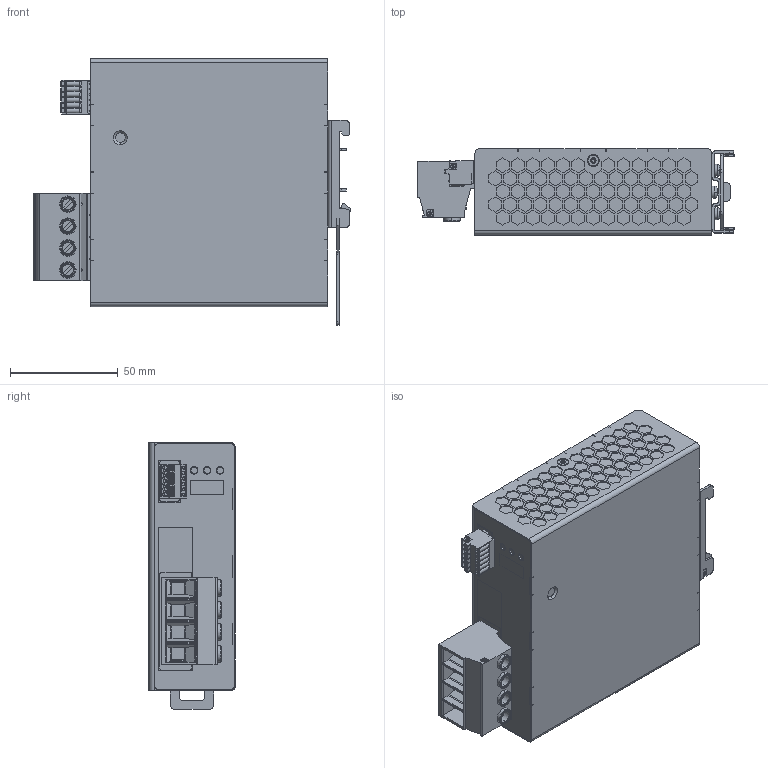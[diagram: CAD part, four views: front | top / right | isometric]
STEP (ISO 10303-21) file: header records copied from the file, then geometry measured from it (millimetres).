
FILE_DESCRIPTION (( 'STEP AP214' ), '1' );
FILE_NAME ('NUPS960-24_3D_light.STEP', '2019-09-11T13:40:58', ( '' ), ( '' ), 'SwSTEP 2.0', 'SolidWorks 2018', '' );
FILE_SCHEMA (( 'AUTOMOTIVE_DESIGN' ));
Length unit declared in the file: millimetre
Products named in the file (1): NUPS960-24_3D_light
Bounding box: 147.06 x 40 x 123.7 mm (x, y, z)
Volume: 531355.8 mm3; surface area: 62295.8 mm2
Topology: 1 solids, 11 shells, 2376 faces, 6359 edges, 4197 vertices
Faces by surface type: plane 1760, cylinder 516, cone 64, bspline 30, torus 6
Entity records: 81800 total; most frequent: CARTESIAN_POINT 15252, ORIENTED_EDGE 12718, DIRECTION 12013, EDGE_CURVE 6359, LINE 4987, VECTOR 4987, VERTEX_POINT 4197, AXIS2_PLACEMENT_3D 3513
